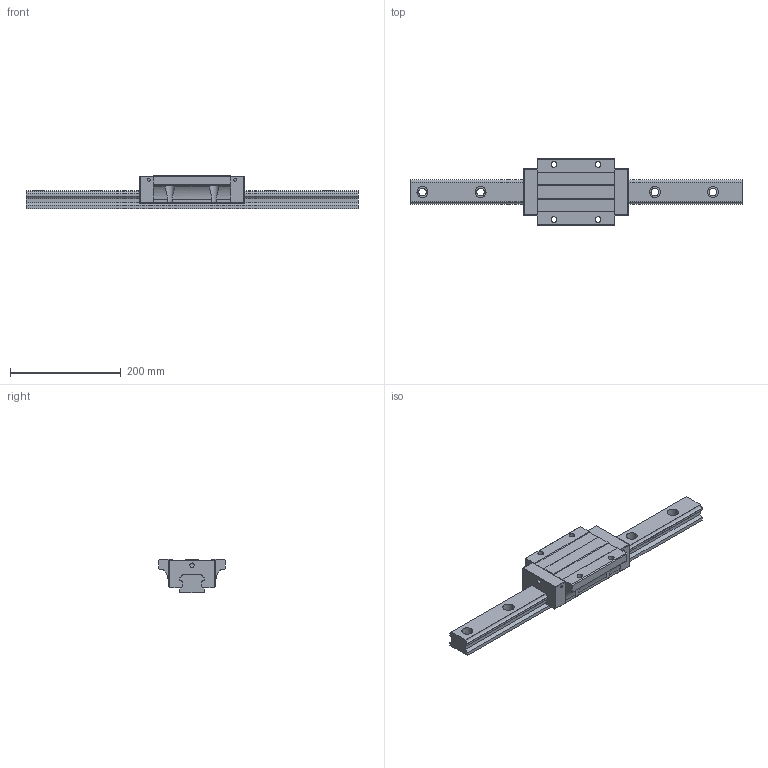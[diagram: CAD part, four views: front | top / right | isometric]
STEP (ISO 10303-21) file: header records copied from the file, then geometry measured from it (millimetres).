
FILE_DESCRIPTION (( 'STEP AP203' ), '1' );
FILE_NAME ('TRH45FE-SZ.STEP', '2024-06-26T06:45:37', ( '' ), ( '' ), 'SwSTEP 2.0', 'SolidWorks 2022', '' );
FILE_SCHEMA (( 'CONFIG_CONTROL_DESIGN' ));
Length unit declared in the file: millimetre
Products named in the file (1): TRH45FE-SZ
Bounding box: 600 x 120 x 60 mm (x, y, z)
Volume: 1416701.6 mm3; surface area: 187718.3 mm2
Topology: 2 solids, 2 shells, 214 faces, 582 edges, 380 vertices
Faces by surface type: cylinder 114, plane 96, sphere 4
Entity records: 7369 total; most frequent: CARTESIAN_POINT 1749, DIRECTION 1172, ORIENTED_EDGE 1156, EDGE_CURVE 578, AXIS2_PLACEMENT_3D 411, VERTEX_POINT 380, VECTOR 350, LINE 350
